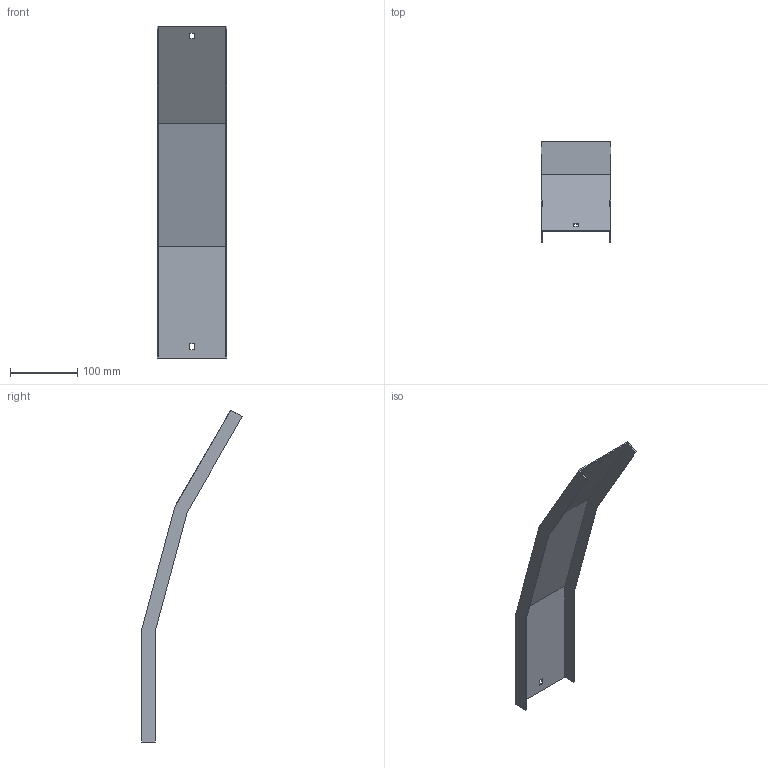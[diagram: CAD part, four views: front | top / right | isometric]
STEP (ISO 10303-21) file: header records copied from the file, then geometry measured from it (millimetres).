
FILE_DESCRIPTION (( 'STEP AP214' ), '1' );
FILE_NAME ('A2_35N3J100.step', '2025-02-21T10:31:09', ( '' ), ( '' ), 'SwSTEP 2.0', 'SolidWorks 2023', '' );
FILE_SCHEMA (( 'AUTOMOTIVE_DESIGN' ));
Length unit declared in the file: millimetre
Products named in the file (1): A2_35N3J100
Bounding box: 103 x 149.62 x 493.76 mm (x, y, z)
Volume: 109181.1 mm3; surface area: 147624.9 mm2
Topology: 1 solids, 1 shells, 26 faces, 72 edges, 48 vertices
Faces by surface type: plane 26
Entity records: 847 total; most frequent: CARTESIAN_POINT 147, ORIENTED_EDGE 144, DIRECTION 126, VECTOR 72, LINE 72, EDGE_CURVE 72, VERTEX_POINT 48, EDGE_LOOP 30
